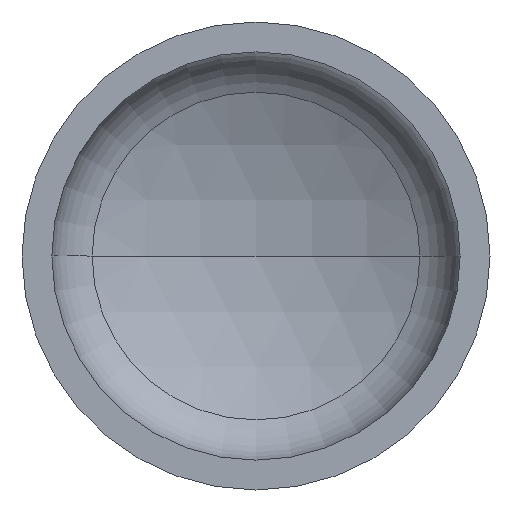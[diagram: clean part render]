
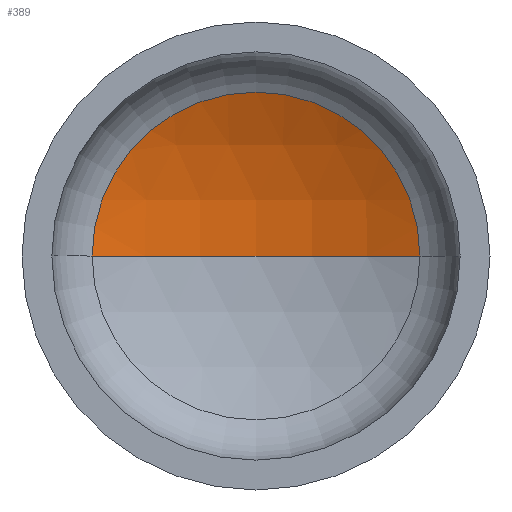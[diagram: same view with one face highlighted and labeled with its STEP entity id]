
A CAD part, front view. The second image highlights one B-rep face of the part: STEP entity #389.
In plain terms, the highlighted spherical face has radius 1280 mm.
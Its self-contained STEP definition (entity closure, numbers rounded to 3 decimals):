
#6 = CIRCLE ( 'NONE', #85, 560.232 ) ;
#14 = CARTESIAN_POINT ( 'NONE',  ( 0., 295.287, 0. ) ) ;
#31 = VERTEX_POINT ( 'NONE', #192 ) ;
#37 = ORIENTED_EDGE ( 'NONE', *, *, #300, .T. ) ;
#46 = ORIENTED_EDGE ( 'NONE', *, *, #354, .T. ) ;
#47 = VERTEX_POINT ( 'NONE', #296 ) ;
#70 = CARTESIAN_POINT ( 'NONE',  ( 0., -855.6, 0. ) ) ;
#85 = AXIS2_PLACEMENT_3D ( 'NONE', #14, #251, #229 ) ;
#91 = DIRECTION ( 'NONE',  ( 0., 0., -1. ) ) ;
#93 = DIRECTION ( 'NONE',  ( -1., 0., 0. ) ) ;
#104 = FACE_OUTER_BOUND ( 'NONE', #356, .T. ) ;
#133 = CIRCLE ( 'NONE', #293, 1280. ) ;
#138 = CARTESIAN_POINT ( 'NONE',  ( 560.232, 295.287, 0. ) ) ;
#144 = CIRCLE ( 'NONE', #196, 1280. ) ;
#151 = VERTEX_POINT ( 'NONE', #138 ) ;
#184 = CARTESIAN_POINT ( 'NONE',  ( 0., -855.6, 0. ) ) ;
#191 = SPHERICAL_SURFACE ( 'NONE', #327, 1280. ) ;
#192 = CARTESIAN_POINT ( 'NONE',  ( 0., 424.4, 0. ) ) ;
#196 = AXIS2_PLACEMENT_3D ( 'NONE', #70, #91, #93 ) ;
#229 = DIRECTION ( 'NONE',  ( 1., 0., 0. ) ) ;
#244 = EDGE_CURVE ( 'NONE', #31, #47, #133, .T. ) ;
#251 = DIRECTION ( 'NONE',  ( 0., -1., 0. ) ) ;
#259 = DIRECTION ( 'NONE',  ( 0., 0., -1. ) ) ;
#293 = AXIS2_PLACEMENT_3D ( 'NONE', #381, #386, #385 ) ;
#296 = CARTESIAN_POINT ( 'NONE',  ( -560.232, 295.287, 0. ) ) ;
#300 = EDGE_CURVE ( 'NONE', #151, #47, #6, .T. ) ;
#327 = AXIS2_PLACEMENT_3D ( 'NONE', #184, #259, #391 ) ;
#354 = EDGE_CURVE ( 'NONE', #31, #151, #144, .T. ) ;
#356 = EDGE_LOOP ( 'NONE', ( #367, #46, #37 ) ) ;
#367 = ORIENTED_EDGE ( 'NONE', *, *, #244, .F. ) ;
#381 = CARTESIAN_POINT ( 'NONE',  ( 0., -855.6, 0. ) ) ;
#385 = DIRECTION ( 'NONE',  ( 1., 0., 0. ) ) ;
#386 = DIRECTION ( 'NONE',  ( 0., 0., 1. ) ) ;
#389 = ADVANCED_FACE ( 'NONE', ( #104 ), #191, .F. ) ;
#391 = DIRECTION ( 'NONE',  ( -1., 0., 0. ) ) ;
